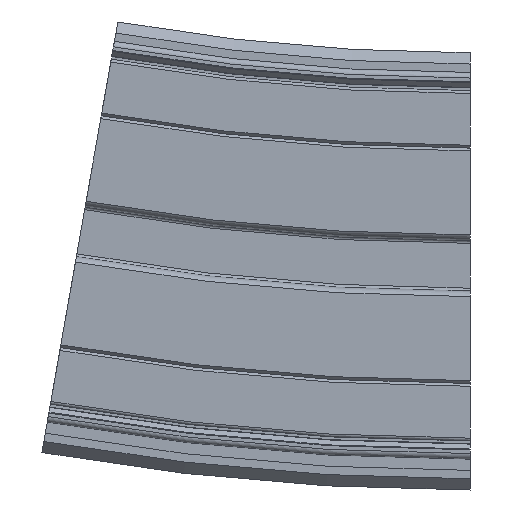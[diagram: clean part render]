
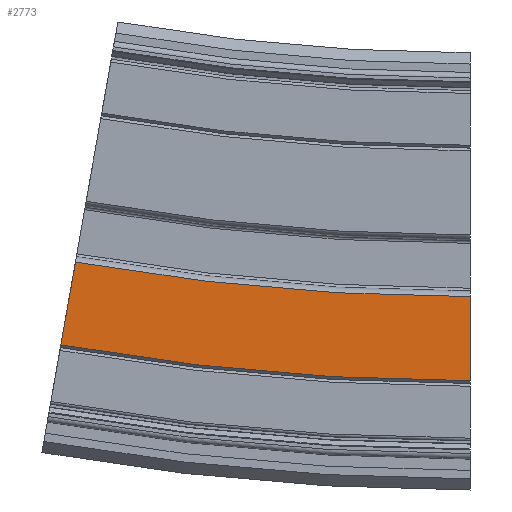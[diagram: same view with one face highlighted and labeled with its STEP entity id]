
A CAD part, left-side view. The second image highlights one B-rep face of the part: STEP entity #2773.
In plain terms, the highlighted planar face has unit normal (-1, 0, 0).
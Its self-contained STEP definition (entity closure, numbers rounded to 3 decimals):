
#267=CIRCLE('',#3020,405.5);
#268=CIRCLE('',#3022,420.5);
#442=FACE_OUTER_BOUND('',#596,.T.);
#596=EDGE_LOOP('',(#2171,#2172,#2173,#2174));
#773=LINE('',#9166,#979);
#774=LINE('',#9168,#980);
#979=VECTOR('',#3622,10.);
#980=VECTOR('',#3623,10.);
#1235=VERTEX_POINT('',#9159);
#1236=VERTEX_POINT('',#9161);
#1237=VERTEX_POINT('',#9165);
#1238=VERTEX_POINT('',#9167);
#1602=EDGE_CURVE('',#1235,#1236,#267,.T.);
#1603=EDGE_CURVE('',#1237,#1235,#773,.T.);
#1604=EDGE_CURVE('',#1238,#1236,#774,.T.);
#1605=EDGE_CURVE('',#1237,#1238,#268,.T.);
#2171=ORIENTED_EDGE('',*,*,#1603,.T.);
#2172=ORIENTED_EDGE('',*,*,#1602,.T.);
#2173=ORIENTED_EDGE('',*,*,#1604,.F.);
#2174=ORIENTED_EDGE('',*,*,#1605,.F.);
#2663=PLANE('',#3021);
#2773=ADVANCED_FACE('',(#442),#2663,.T.);
#3020=AXIS2_PLACEMENT_3D('',#9163,#3618,#3619);
#3021=AXIS2_PLACEMENT_3D('',#9164,#3620,#3621);
#3022=AXIS2_PLACEMENT_3D('',#9169,#3624,#3625);
#3618=DIRECTION('center_axis',(1.,0.,0.));
#3619=DIRECTION('ref_axis',(0.,0.,
-1.));
#3620=DIRECTION('center_axis',(-1.,0.,0.));
#3621=DIRECTION('ref_axis',(0.,0.,1.));
#3622=DIRECTION('',(0.,0.,1.));
#3623=DIRECTION('',(0.,-0.174,0.985));
#3624=DIRECTION('center_axis',(1.,0.,0.));
#3625=DIRECTION('ref_axis',(0.,0.,-1.));
#9159=CARTESIAN_POINT('',(-32.,0.,-5.5));
#9161=CARTESIAN_POINT('',(-32.,70.414,0.66));
#9163=CARTESIAN_POINT('Origin',(-32.,0.,
400.));
#9164=CARTESIAN_POINT('Origin',(-32.,0.,-20.5));
#9165=CARTESIAN_POINT('',(-32.,0.,-20.5));
#9166=CARTESIAN_POINT('',(-32.,0.,-20.5));
#9167=CARTESIAN_POINT('',(-32.,73.019,-14.112));
#9168=CARTESIAN_POINT('',(-32.,73.019,-14.112));
#9169=CARTESIAN_POINT('Origin',(-32.,0.,
400.));
